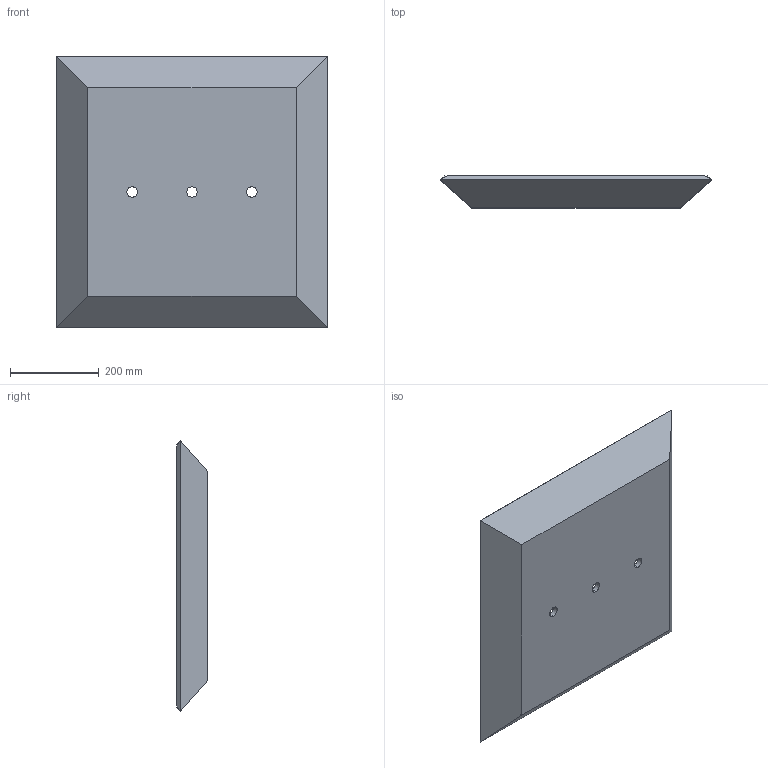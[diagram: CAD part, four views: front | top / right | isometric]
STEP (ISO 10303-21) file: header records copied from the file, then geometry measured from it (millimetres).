
FILE_DESCRIPTION (( 'STEP AP214' ), '1' );
FILE_NAME ('Spot Focus - Triple Horizontal - 3 In Deep Assembly - V5.STEP', '2022-08-02T15:29:28', ( '' ), ( '' ), 'SwSTEP 2.0', 'SolidWorks 2020', '' );
FILE_SCHEMA (( 'AUTOMOTIVE_DESIGN' ));
Length unit declared in the file: inch
Products named in the file (3): 3 In Deep Extruded Tile Side - V5; Spot Focus - Triple Horizontal - 3 In Deep Top - V5; Spot Focus - Triple Horizontal - 3 In Deep Assembly - V5
Assembly tree (5 placements, depth 2):
  Spot Focus - Triple Horizontal - 3 In Deep Assembly - V5
    Spot Focus - Triple Horizontal - 3 In Deep Top - V5
    3 In Deep Extruded Tile Side - V5  x4
Bounding box: 609.6 x 71.4 x 609.6 mm (x, y, z)
Volume: 4752718.1 mm3; surface area: 897591 mm2
Topology: 5 solids, 5 shells, 36 faces, 78 edges, 52 vertices
Faces by surface type: plane 30, cylinder 6
Entity records: 678 total; most frequent: DIRECTION 106, CARTESIAN_POINT 96, ORIENTED_EDGE 84, EDGE_CURVE 42, AXIS2_PLACEMENT_3D 38, VECTOR 30, LINE 30, VERTEX_POINT 28
